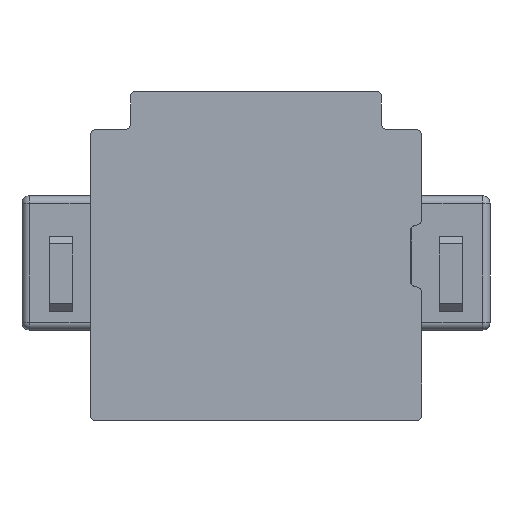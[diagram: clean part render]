
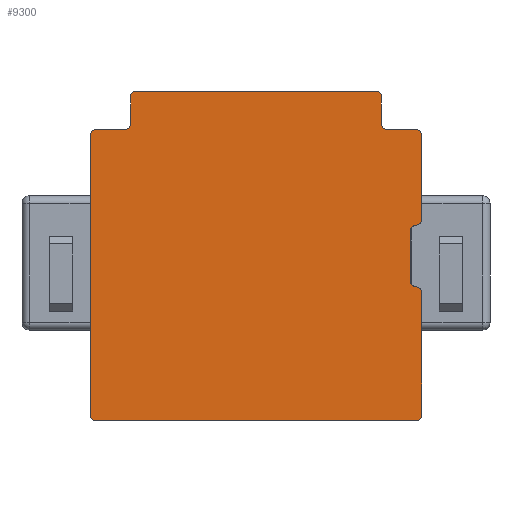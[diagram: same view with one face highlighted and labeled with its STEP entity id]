
A CAD part, front view. The second image highlights one B-rep face of the part: STEP entity #9300.
In plain terms, the highlighted planar face has unit normal (0, -1, 0).
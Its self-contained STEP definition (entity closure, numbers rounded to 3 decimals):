
#163=DIRECTION('',(0.,0.,1.));
#164=VECTOR('',#163,7.3);
#165=CARTESIAN_POINT('',(-3.05,-4.75,-4.145));
#166=LINE('',#165,#164);
#167=DIRECTION('',(1.,0.,0.));
#168=VECTOR('',#167,8.34);
#169=CARTESIAN_POINT('',(-2.9,-4.75,-4.295));
#170=LINE('',#169,#168);
#171=CARTESIAN_POINT('',(-2.9,-4.75,-4.145));
#172=DIRECTION('',(0.,-1.,0.));
#173=DIRECTION('',(-1.,0.,0.));
#174=AXIS2_PLACEMENT_3D('',#171,#172,#173);
#176=CARTESIAN_POINT('',(-2.9,-4.75,3.155));
#177=DIRECTION('',(0.,-1.,0.));
#178=DIRECTION('',(0.,0.,1.));
#179=AXIS2_PLACEMENT_3D('',#176,#177,#178);
#181=CARTESIAN_POINT('',(-2.15,-4.75,3.455));
#182=DIRECTION('',(0.,1.,0.));
#183=DIRECTION('',(1.,0.,0.));
#184=AXIS2_PLACEMENT_3D('',#181,#182,#183);
#186=CARTESIAN_POINT('',(-1.85,-4.75,4.155));
#187=DIRECTION('',(0.,-1.,0.));
#188=DIRECTION('',(0.,0.,1.));
#189=AXIS2_PLACEMENT_3D('',#186,#187,#188);
#191=CARTESIAN_POINT('',(4.39,-4.75,4.155));
#192=DIRECTION('',(0.,-1.,0.));
#193=DIRECTION('',(1.,0.,0.));
#194=AXIS2_PLACEMENT_3D('',#191,#192,#193);
#196=CARTESIAN_POINT('',(4.69,-4.75,3.455));
#197=DIRECTION('',(0.,1.,0.));
#198=DIRECTION('',(0.,0.,-1.));
#199=AXIS2_PLACEMENT_3D('',#196,#197,#198);
#201=CARTESIAN_POINT('',(5.44,-4.75,3.155));
#202=DIRECTION('',(0.,-1.,0.));
#203=DIRECTION('',(1.,0.,0.));
#204=AXIS2_PLACEMENT_3D('',#201,#202,#203);
#206=CARTESIAN_POINT('',(5.44,-4.75,0.955));
#207=DIRECTION('',(0.,-1.,0.));
#208=DIRECTION('',(0.,0.,-1.));
#209=AXIS2_PLACEMENT_3D('',#206,#207,#208);
#211=CARTESIAN_POINT('',(5.44,-4.75,0.655));
#212=DIRECTION('',(0.,1.,0.));
#213=DIRECTION('',(-1.,0.,0.));
#214=AXIS2_PLACEMENT_3D('',#211,#212,#213);
#216=CARTESIAN_POINT('',(5.44,-4.75,-0.645));
#217=DIRECTION('',(0.,1.,0.));
#218=DIRECTION('',(0.,0.,-1.));
#219=AXIS2_PLACEMENT_3D('',#216,#217,#218);
#221=CARTESIAN_POINT('',(5.44,-4.75,-0.945));
#222=DIRECTION('',(0.,-1.,0.));
#223=DIRECTION('',(1.,0.,0.));
#224=AXIS2_PLACEMENT_3D('',#221,#222,#223);
#226=CARTESIAN_POINT('',(5.44,-4.75,-4.145));
#227=DIRECTION('',(0.,-1.,0.));
#228=DIRECTION('',(0.,0.,-1.));
#229=AXIS2_PLACEMENT_3D('',#226,#227,#228);
#251=DIRECTION('',(1.,0.,0.));
#252=VECTOR('',#251,0.75);
#253=CARTESIAN_POINT('',(-2.9,-4.75,3.305));
#254=LINE('',#253,#252);
#271=DIRECTION('',(1.,0.,0.));
#272=VECTOR('',#271,0.75);
#273=CARTESIAN_POINT('',(4.69,-4.75,3.305));
#274=LINE('',#273,#272);
#283=DIRECTION('',(0.,0.,-1.));
#284=VECTOR('',#283,2.2);
#285=CARTESIAN_POINT('',(5.59,-4.75,3.155));
#286=LINE('',#285,#284);
#307=DIRECTION('',(0.,0.,-1.));
#308=VECTOR('',#307,1.3);
#309=CARTESIAN_POINT('',(5.29,-4.75,0.655));
#310=LINE('',#309,#308);
#327=DIRECTION('',(0.,0.,-1.));
#328=VECTOR('',#327,3.2);
#329=CARTESIAN_POINT('',(5.59,-4.75,-0.945));
#330=LINE('',#329,#328);
#371=DIRECTION('',(1.,0.,0.));
#372=VECTOR('',#371,6.24);
#373=CARTESIAN_POINT('',(-1.85,-4.75,4.305));
#374=LINE('',#373,#372);
#391=DIRECTION('',(0.,0.,1.));
#392=VECTOR('',#391,0.7);
#393=CARTESIAN_POINT('',(-2.,-4.75,3.455));
#394=LINE('',#393,#392);
#411=DIRECTION('',(0.,0.,-1.));
#412=VECTOR('',#411,0.7);
#413=CARTESIAN_POINT('',(4.54,-4.75,4.155));
#414=LINE('',#413,#412);
#8328=CARTESIAN_POINT('',(-2.9,-4.75,-4.295));
#8330=VERTEX_POINT('',#8328);
#8331=CARTESIAN_POINT('',(5.44,-4.75,-4.295));
#8332=VERTEX_POINT('',#8331);
#8341=CARTESIAN_POINT('',(-3.05,-4.75,-4.145));
#8342=VERTEX_POINT('',#8341);
#8345=CARTESIAN_POINT('',(-3.05,-4.75,3.155));
#8346=VERTEX_POINT('',#8345);
#8347=CARTESIAN_POINT('',(-2.9,-4.75,3.305));
#8348=VERTEX_POINT('',#8347);
#8349=CARTESIAN_POINT('',(-2.15,-4.75,3.305));
#8350=VERTEX_POINT('',#8349);
#8351=CARTESIAN_POINT('',(-2.,-4.75,3.455));
#8352=VERTEX_POINT('',#8351);
#8353=CARTESIAN_POINT('',(-2.,-4.75,4.155));
#8354=VERTEX_POINT('',#8353);
#8355=CARTESIAN_POINT('',(-1.85,-4.75,4.305));
#8356=VERTEX_POINT('',#8355);
#8357=CARTESIAN_POINT('',(4.39,-4.75,4.305));
#8358=VERTEX_POINT('',#8357);
#8359=CARTESIAN_POINT('',(4.54,-4.75,4.155));
#8360=VERTEX_POINT('',#8359);
#8361=CARTESIAN_POINT('',(4.54,-4.75,3.455));
#8362=VERTEX_POINT('',#8361);
#8363=CARTESIAN_POINT('',(4.69,-4.75,3.305));
#8364=VERTEX_POINT('',#8363);
#8365=CARTESIAN_POINT('',(5.44,-4.75,3.305));
#8366=VERTEX_POINT('',#8365);
#8367=CARTESIAN_POINT('',(5.59,-4.75,3.155));
#8368=VERTEX_POINT('',#8367);
#8369=CARTESIAN_POINT('',(5.59,-4.75,0.955));
#8370=VERTEX_POINT('',#8369);
#8371=CARTESIAN_POINT('',(5.44,-4.75,0.805));
#8372=VERTEX_POINT('',#8371);
#8373=CARTESIAN_POINT('',(5.29,-4.75,0.655));
#8374=VERTEX_POINT('',#8373);
#8375=CARTESIAN_POINT('',(5.29,-4.75,-0.645));
#8376=VERTEX_POINT('',#8375);
#8377=CARTESIAN_POINT('',(5.44,-4.75,-0.795));
#8378=VERTEX_POINT('',#8377);
#8379=CARTESIAN_POINT('',(5.59,-4.75,-0.945));
#8380=VERTEX_POINT('',#8379);
#8381=CARTESIAN_POINT('',(5.59,-4.75,-4.145));
#8382=VERTEX_POINT('',#8381);
#9251=CARTESIAN_POINT('',(2.54,-4.75,0.005));
#9252=DIRECTION('',(0.,1.,0.));
#9253=DIRECTION('',(0.,0.,1.));
#9254=AXIS2_PLACEMENT_3D('',#9251,#9252,#9253);
#9255=PLANE('',#9254);
#9256=ORIENTED_EDGE('',*,*,#9060,.F.);
#9258=ORIENTED_EDGE('',*,*,#9257,.F.);
#9259=ORIENTED_EDGE('',*,*,#9241,.T.);
#9261=ORIENTED_EDGE('',*,*,#9260,.F.);
#9263=ORIENTED_EDGE('',*,*,#9262,.T.);
#9265=ORIENTED_EDGE('',*,*,#9264,.F.);
#9267=ORIENTED_EDGE('',*,*,#9266,.T.);
#9269=ORIENTED_EDGE('',*,*,#9268,.F.);
#9271=ORIENTED_EDGE('',*,*,#9270,.T.);
#9273=ORIENTED_EDGE('',*,*,#9272,.F.);
#9275=ORIENTED_EDGE('',*,*,#9274,.T.);
#9277=ORIENTED_EDGE('',*,*,#9276,.F.);
#9279=ORIENTED_EDGE('',*,*,#9278,.T.);
#9281=ORIENTED_EDGE('',*,*,#9280,.F.);
#9283=ORIENTED_EDGE('',*,*,#9282,.T.);
#9285=ORIENTED_EDGE('',*,*,#9284,.F.);
#9287=ORIENTED_EDGE('',*,*,#9286,.F.);
#9289=ORIENTED_EDGE('',*,*,#9288,.T.);
#9291=ORIENTED_EDGE('',*,*,#9290,.F.);
#9293=ORIENTED_EDGE('',*,*,#9292,.F.);
#9295=ORIENTED_EDGE('',*,*,#9294,.T.);
#9297=ORIENTED_EDGE('',*,*,#9296,.F.);
#9298=EDGE_LOOP('',(#9256,#9258,#9259,#9261,#9263,#9265,#9267,#9269,#9271,#9273,
#9275,#9277,#9279,#9281,#9283,#9285,#9287,#9289,#9291,#9293,#9295,#9297));
#9299=FACE_OUTER_BOUND('',#9298,.F.);
#9300=ADVANCED_FACE('',(#9299),#9255,.F.);
#175=CIRCLE('',#174,0.15);
#180=CIRCLE('',#179,0.15);
#185=CIRCLE('',#184,0.15);
#190=CIRCLE('',#189,0.15);
#195=CIRCLE('',#194,0.15);
#200=CIRCLE('',#199,0.15);
#205=CIRCLE('',#204,0.15);
#210=CIRCLE('',#209,0.15);
#215=CIRCLE('',#214,0.15);
#220=CIRCLE('',#219,0.15);
#225=CIRCLE('',#224,0.15);
#230=CIRCLE('',#229,0.15);
#9060=EDGE_CURVE('',#8330,#8332,#170,.T.);
#9241=EDGE_CURVE('',#8342,#8346,#166,.T.);
#9257=EDGE_CURVE('',#8342,#8330,#175,.T.);
#9260=EDGE_CURVE('',#8348,#8346,#180,.T.);
#9262=EDGE_CURVE('',#8348,#8350,#254,.T.);
#9264=EDGE_CURVE('',#8352,#8350,#185,.T.);
#9266=EDGE_CURVE('',#8352,#8354,#394,.T.);
#9268=EDGE_CURVE('',#8356,#8354,#190,.T.);
#9270=EDGE_CURVE('',#8356,#8358,#374,.T.);
#9272=EDGE_CURVE('',#8360,#8358,#195,.T.);
#9274=EDGE_CURVE('',#8360,#8362,#414,.T.);
#9276=EDGE_CURVE('',#8364,#8362,#200,.T.);
#9278=EDGE_CURVE('',#8364,#8366,#274,.T.);
#9280=EDGE_CURVE('',#8368,#8366,#205,.T.);
#9282=EDGE_CURVE('',#8368,#8370,#286,.T.);
#9284=EDGE_CURVE('',#8372,#8370,#210,.T.);
#9286=EDGE_CURVE('',#8374,#8372,#215,.T.);
#9288=EDGE_CURVE('',#8374,#8376,#310,.T.);
#9290=EDGE_CURVE('',#8378,#8376,#220,.T.);
#9292=EDGE_CURVE('',#8380,#8378,#225,.T.);
#9294=EDGE_CURVE('',#8380,#8382,#330,.T.);
#9296=EDGE_CURVE('',#8332,#8382,#230,.T.);
